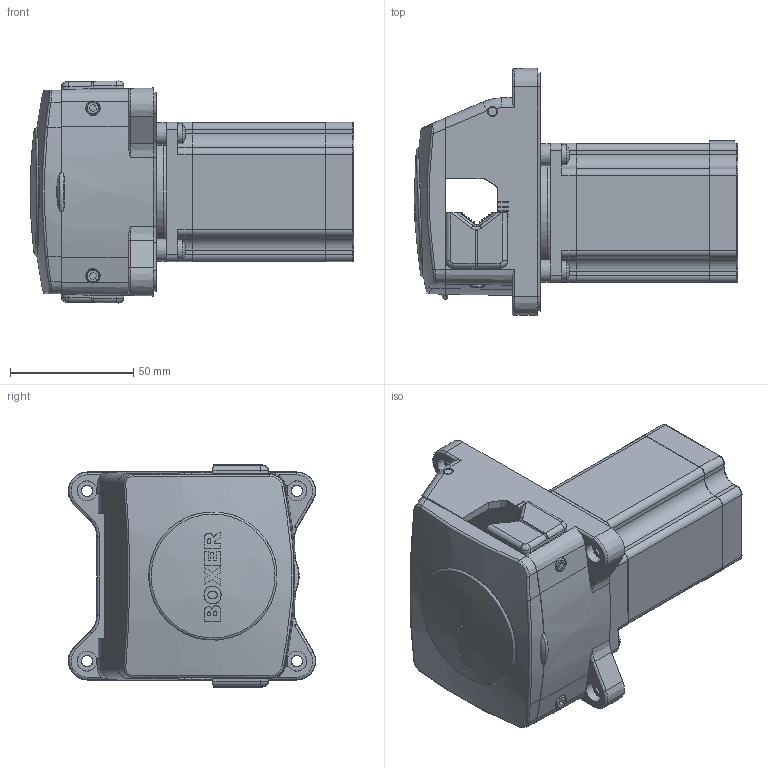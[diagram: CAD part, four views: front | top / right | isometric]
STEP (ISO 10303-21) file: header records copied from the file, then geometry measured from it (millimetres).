
FILE_DESCRIPTION (( 'STEP AP214' ), '1' );
FILE_NAME ('30004(5).000_30KS_long_external.STEP', '2022-02-14T16:43:14', ( '' ), ( '' ), 'SwSTEP 2.0', 'SolidWorks 2021', '' );
FILE_SCHEMA (( 'AUTOMOTIVE_DESIGN' ));
Length unit declared in the file: millimetre
Products named in the file (1): 30004(5).000_30KS_long_external
Bounding box: 131.09 x 100.29 x 89.97 mm (x, y, z)
Volume: 327920.5 mm3; surface area: 96988.3 mm2
Topology: 14 solids, 14 shells, 1940 faces, 4861 edges, 3013 vertices
Faces by surface type: plane 770, cylinder 514, bspline 291, cone 137, torus 124, sphere 104
Full cylindrical faces by diameter (mm): 2.5 x2, 3 x6, 3.2 x2, 3.5 x4, 4 x8, 4.05 x2, 4.517 x4, 5 x5, 5.45 x2, 8 x4, 10 x2, 16.5 x1, 18 x1, 22 x1, 38 x1, 52 x1
Entity records: 74368 total; most frequent: CARTESIAN_POINT 27034, ORIENTED_EDGE 9444, DIRECTION 8357, EDGE_CURVE 4722, AXIS2_PLACEMENT_3D 3048, VERTEX_POINT 2979, LINE 2261, VECTOR 2261
